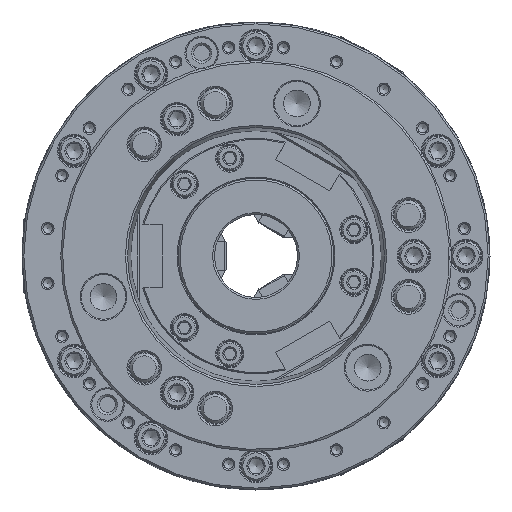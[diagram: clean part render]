
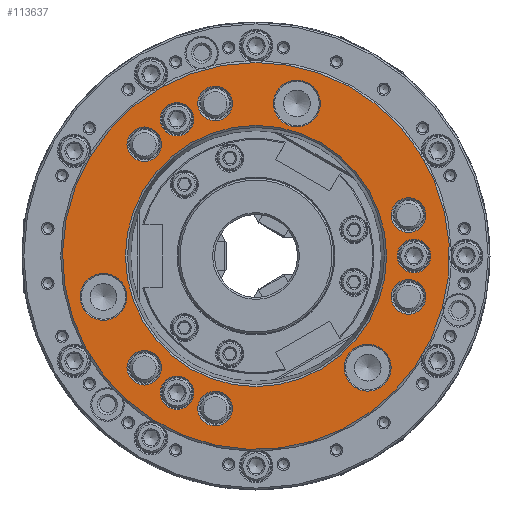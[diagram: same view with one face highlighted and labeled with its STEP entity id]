
A CAD part, left-side view. The second image highlights one B-rep face of the part: STEP entity #113637.
In plain terms, the highlighted planar face has unit normal (-1, 0, 0).
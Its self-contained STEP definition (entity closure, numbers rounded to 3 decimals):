
#1147 = AXIS2_PLACEMENT_3D ( 'NONE', #92659, #24201, #63555 ) ;
#3025 = EDGE_CURVE ( 'NONE', #101334, #101334, #127035, .T. ) ;
#3201 = CIRCLE ( 'NONE', #1147, 9.1 ) ;
#5072 = CARTESIAN_POINT ( 'NONE',  ( -114., 60.617, 70.017 ) ) ;
#5538 = VERTEX_POINT ( 'NONE', #35301 ) ;
#7257 = FACE_BOUND ( 'NONE', #65938, .T. ) ;
#8557 = FACE_BOUND ( 'NONE', #112710, .T. ) ;
#11482 = CARTESIAN_POINT ( 'NONE',  ( -114., 60.617, 60.617 ) ) ;
#11583 = ORIENTED_EDGE ( 'NONE', *, *, #23357, .F. ) ;
#11801 = AXIS2_PLACEMENT_3D ( 'NONE', #64435, #103814, #124495 ) ;
#13238 = ORIENTED_EDGE ( 'NONE', *, *, #102738, .F. ) ;
#14631 = EDGE_CURVE ( 'NONE', #38583, #38583, #114431, .T. ) ;
#16107 = AXIS2_PLACEMENT_3D ( 'NONE', #80657, #42489, #81928 ) ;
#19933 = CARTESIAN_POINT ( 'NONE',  ( -114., 0., 0. ) ) ;
#20466 = EDGE_CURVE ( 'NONE', #30828, #30828, #3201, .T. ) ;
#20792 = CIRCLE ( 'NONE', #126011, 9.1 ) ;
#21116 = DIRECTION ( 'NONE',  ( -1., 0., 0. ) ) ;
#21789 = CIRCLE ( 'NONE', #93974, 9.1 ) ;
#22289 = CARTESIAN_POINT ( 'NONE',  ( -114., 42.862, -74.24 ) ) ;
#22428 = VERTEX_POINT ( 'NONE', #83151 ) ;
#23357 = EDGE_CURVE ( 'NONE', #112177, #112177, #23728, .T. ) ;
#23728 = CIRCLE ( 'NONE', #46314, 70.861 ) ;
#23734 = CARTESIAN_POINT ( 'NONE',  ( -114., 82.804, -22.187 ) ) ;
#23831 = CARTESIAN_POINT ( 'NONE',  ( -114., 42.863, 74.24 ) ) ;
#23855 = CARTESIAN_POINT ( 'NONE',  ( -114., 0., 105. ) ) ;
#24201 = DIRECTION ( 'NONE',  ( -1., 0., 0. ) ) ;
#25109 = DIRECTION ( 'NONE',  ( 0., 0., 1. ) ) ;
#27850 = CARTESIAN_POINT ( 'NONE',  ( -114., 82.804, -34.892 ) ) ;
#28648 = FACE_BOUND ( 'NONE', #32006, .T. ) ;
#28682 = EDGE_LOOP ( 'NONE', ( #11583 ) ) ;
#29240 = DIRECTION ( 'NONE',  ( 1., 0., 0. ) ) ;
#29476 = AXIS2_PLACEMENT_3D ( 'NONE', #68035, #85471, #124893 ) ;
#30828 = VERTEX_POINT ( 'NONE', #118640 ) ;
#31654 = VERTEX_POINT ( 'NONE', #39412 ) ;
#31661 = AXIS2_PLACEMENT_3D ( 'NONE', #23734, #63090, #50190 ) ;
#32006 = EDGE_LOOP ( 'NONE', ( #49163 ) ) ;
#33289 = CIRCLE ( 'NONE', #119821, 9.4 ) ;
#33340 = DIRECTION ( 'NONE',  ( -1., 0., 0. ) ) ;
#35301 = CARTESIAN_POINT ( 'NONE',  ( -114., 42.862, -65.14 ) ) ;
#37492 = EDGE_CURVE ( 'NONE', #114072, #114072, #67063, .T. ) ;
#37669 = FACE_BOUND ( 'NONE', #38878, .T. ) ;
#38583 = VERTEX_POINT ( 'NONE', #68331 ) ;
#38878 = EDGE_LOOP ( 'NONE', ( #52444 ) ) ;
#39412 = CARTESIAN_POINT ( 'NONE',  ( -114., -82.804, 31.587 ) ) ;
#40474 = CARTESIAN_POINT ( 'NONE',  ( -114., -82.804, 22.187 ) ) ;
#40477 = AXIS2_PLACEMENT_3D ( 'NONE', #45350, #124209, #45964 ) ;
#41853 = CIRCLE ( 'NONE', #31661, 12.705 ) ;
#42489 = DIRECTION ( 'NONE',  ( -1., 0., 0. ) ) ;
#43016 = DIRECTION ( 'NONE',  ( -1., 0., 0. ) ) ;
#45350 = CARTESIAN_POINT ( 'NONE',  ( -114., 22.187, 82.804 ) ) ;
#45964 = DIRECTION ( 'NONE',  ( 0., 0., 1. ) ) ;
#46314 = AXIS2_PLACEMENT_3D ( 'NONE', #79714, #71301, #99704 ) ;
#46543 = EDGE_CURVE ( 'NONE', #81515, #81515, #110998, .T. ) ;
#46670 = FACE_BOUND ( 'NONE', #28682, .T. ) ;
#47138 = VERTEX_POINT ( 'NONE', #27850 ) ;
#47309 = PLANE ( 'NONE',  #29476 ) ;
#47950 = FACE_BOUND ( 'NONE', #51101, .T. ) ;
#49163 = ORIENTED_EDGE ( 'NONE', *, *, #46543, .F. ) ;
#50190 = DIRECTION ( 'NONE',  ( 0., 0., -1. ) ) ;
#51101 = EDGE_LOOP ( 'NONE', ( #13238 ) ) ;
#51463 = CARTESIAN_POINT ( 'NONE',  ( -114., 42.863, 83.34 ) ) ;
#52072 = CARTESIAN_POINT ( 'NONE',  ( -114., 0., 70.861 ) ) ;
#52444 = ORIENTED_EDGE ( 'NONE', *, *, #93058, .F. ) ;
#52762 = EDGE_LOOP ( 'NONE', ( #122595 ) ) ;
#56989 = FACE_BOUND ( 'NONE', #93420, .T. ) ;
#58243 = DIRECTION ( 'NONE',  ( 0., 0., -1. ) ) ;
#58959 = ORIENTED_EDGE ( 'NONE', *, *, #103769, .F. ) ;
#60373 = DIRECTION ( 'NONE',  ( -1., 0., 0. ) ) ;
#61218 = DIRECTION ( 'NONE',  ( -1., 0., 0. ) ) ;
#62357 = AXIS2_PLACEMENT_3D ( 'NONE', #11482, #61218, #100632 ) ;
#63090 = DIRECTION ( 'NONE',  ( 1., 0., 0. ) ) ;
#63555 = DIRECTION ( 'NONE',  ( 0., 0., 1. ) ) ;
#63982 = EDGE_CURVE ( 'NONE', #47138, #47138, #41853, .T. ) ;
#64082 = ORIENTED_EDGE ( 'NONE', *, *, #110928, .F. ) ;
#64435 = CARTESIAN_POINT ( 'NONE',  ( -114., -60.617, -60.617 ) ) ;
#64524 = VERTEX_POINT ( 'NONE', #5072 ) ;
#65938 = EDGE_LOOP ( 'NONE', ( #70056 ) ) ;
#66088 = FACE_OUTER_BOUND ( 'NONE', #82895, .T. ) ;
#66337 = CIRCLE ( 'NONE', #89031, 9.4 ) ;
#67063 = CIRCLE ( 'NONE', #40477, 9.4 ) ;
#68035 = CARTESIAN_POINT ( 'NONE',  ( -114., 105., 0. ) ) ;
#68331 = CARTESIAN_POINT ( 'NONE',  ( -114., -22.187, 70.099 ) ) ;
#69607 = VERTEX_POINT ( 'NONE', #117385 ) ;
#69894 = CARTESIAN_POINT ( 'NONE',  ( -114., -22.187, 82.804 ) ) ;
#70056 = ORIENTED_EDGE ( 'NONE', *, *, #20466, .F. ) ;
#70297 = EDGE_LOOP ( 'NONE', ( #58959 ) ) ;
#70329 = EDGE_CURVE ( 'NONE', #31654, #31654, #118435, .T. ) ;
#70830 = CARTESIAN_POINT ( 'NONE',  ( -114., 22.187, -82.804 ) ) ;
#71301 = DIRECTION ( 'NONE',  ( -1., 0., 0. ) ) ;
#75511 = AXIS2_PLACEMENT_3D ( 'NONE', #19933, #79381, #118738 ) ;
#75804 = FACE_BOUND ( 'NONE', #103934, .T. ) ;
#76946 = EDGE_CURVE ( 'NONE', #64524, #64524, #109755, .T. ) ;
#78364 = FACE_BOUND ( 'NONE', #70297, .T. ) ;
#79122 = ORIENTED_EDGE ( 'NONE', *, *, #3025, .T. ) ;
#79381 = DIRECTION ( 'NONE',  ( -1., 0., 0. ) ) ;
#79714 = CARTESIAN_POINT ( 'NONE',  ( -114., 0., 0. ) ) ;
#80657 = CARTESIAN_POINT ( 'NONE',  ( -114., -82.804, -22.187 ) ) ;
#81515 = VERTEX_POINT ( 'NONE', #100212 ) ;
#81928 = DIRECTION ( 'NONE',  ( 0., 0., 1. ) ) ;
#82895 = EDGE_LOOP ( 'NONE', ( #79122 ) ) ;
#83151 = CARTESIAN_POINT ( 'NONE',  ( -114., 60.617, -51.217 ) ) ;
#85471 = DIRECTION ( 'NONE',  ( 1., 0., 0. ) ) ;
#85563 = AXIS2_PLACEMENT_3D ( 'NONE', #69894, #29240, #58243 ) ;
#88947 = DIRECTION ( 'NONE',  ( 0., 0., 1. ) ) ;
#89031 = AXIS2_PLACEMENT_3D ( 'NONE', #118126, #33340, #102390 ) ;
#89611 = VERTEX_POINT ( 'NONE', #51463 ) ;
#90667 = ORIENTED_EDGE ( 'NONE', *, *, #105609, .T. ) ;
#91152 = EDGE_LOOP ( 'NONE', ( #124182 ) ) ;
#91635 = DIRECTION ( 'NONE',  ( -1., 0., 0. ) ) ;
#92152 = CARTESIAN_POINT ( 'NONE',  ( -114., -60.617, -73.322 ) ) ;
#92659 = CARTESIAN_POINT ( 'NONE',  ( -114., -85.725, 0. ) ) ;
#93058 = EDGE_CURVE ( 'NONE', #69607, #69607, #33289, .T. ) ;
#93420 = EDGE_LOOP ( 'NONE', ( #64082 ) ) ;
#93974 = AXIS2_PLACEMENT_3D ( 'NONE', #22289, #60373, #101706 ) ;
#96562 = CARTESIAN_POINT ( 'NONE',  ( -114., 22.187, 92.204 ) ) ;
#97720 = FACE_BOUND ( 'NONE', #124030, .T. ) ;
#99704 = DIRECTION ( 'NONE',  ( 0., 0., 1. ) ) ;
#100212 = CARTESIAN_POINT ( 'NONE',  ( -114., -82.804, -12.787 ) ) ;
#100632 = DIRECTION ( 'NONE',  ( 0., 0., 1. ) ) ;
#101334 = VERTEX_POINT ( 'NONE', #23855 ) ;
#101540 = EDGE_LOOP ( 'NONE', ( #90667 ) ) ;
#101706 = DIRECTION ( 'NONE',  ( 0., 0., 1. ) ) ;
#101850 = VERTEX_POINT ( 'NONE', #92152 ) ;
#102390 = DIRECTION ( 'NONE',  ( 0., 0., 1. ) ) ;
#102738 = EDGE_CURVE ( 'NONE', #89611, #89611, #20792, .T. ) ;
#103769 = EDGE_CURVE ( 'NONE', #22428, #22428, #66337, .T. ) ;
#103814 = DIRECTION ( 'NONE',  ( 1., 0., 0. ) ) ;
#103934 = EDGE_LOOP ( 'NONE', ( #116005 ) ) ;
#105609 = EDGE_CURVE ( 'NONE', #101850, #101850, #121207, .T. ) ;
#109755 = CIRCLE ( 'NONE', #62357, 9.4 ) ;
#110201 = DIRECTION ( 'NONE',  ( 0., 0., 1. ) ) ;
#110928 = EDGE_CURVE ( 'NONE', #5538, #5538, #21789, .T. ) ;
#110998 = CIRCLE ( 'NONE', #16107, 9.4 ) ;
#112177 = VERTEX_POINT ( 'NONE', #52072 ) ;
#112710 = EDGE_LOOP ( 'NONE', ( #116943 ) ) ;
#113637 = ADVANCED_FACE ( 'NONE', ( #8557, #117080, #116436, #78364, #37669, #75804, #56989, #47950, #28648, #126810, #7257, #46670, #66088, #97720 ), #47309, .F. ) ;
#114072 = VERTEX_POINT ( 'NONE', #96562 ) ;
#114431 = CIRCLE ( 'NONE', #85563, 12.705 ) ;
#116005 = ORIENTED_EDGE ( 'NONE', *, *, #37492, .F. ) ;
#116436 = FACE_BOUND ( 'NONE', #91152, .T. ) ;
#116943 = ORIENTED_EDGE ( 'NONE', *, *, #14631, .T. ) ;
#117080 = FACE_BOUND ( 'NONE', #101540, .T. ) ;
#117151 = ORIENTED_EDGE ( 'NONE', *, *, #76946, .F. ) ;
#117385 = CARTESIAN_POINT ( 'NONE',  ( -114., 22.187, -73.404 ) ) ;
#118126 = CARTESIAN_POINT ( 'NONE',  ( -114., 60.617, -60.617 ) ) ;
#118435 = CIRCLE ( 'NONE', #124649, 9.4 ) ;
#118640 = CARTESIAN_POINT ( 'NONE',  ( -114., -85.725, 9.1 ) ) ;
#118738 = DIRECTION ( 'NONE',  ( 0., 0., 1. ) ) ;
#119821 = AXIS2_PLACEMENT_3D ( 'NONE', #70830, #43016, #110201 ) ;
#121207 = CIRCLE ( 'NONE', #11801, 12.705 ) ;
#122595 = ORIENTED_EDGE ( 'NONE', *, *, #70329, .F. ) ;
#124030 = EDGE_LOOP ( 'NONE', ( #117151 ) ) ;
#124182 = ORIENTED_EDGE ( 'NONE', *, *, #63982, .T. ) ;
#124209 = DIRECTION ( 'NONE',  ( -1., 0., 0. ) ) ;
#124495 = DIRECTION ( 'NONE',  ( 0., 0., -1. ) ) ;
#124649 = AXIS2_PLACEMENT_3D ( 'NONE', #40474, #21116, #88947 ) ;
#124893 = DIRECTION ( 'NONE',  ( 0., 0., -1. ) ) ;
#126011 = AXIS2_PLACEMENT_3D ( 'NONE', #23831, #91635, #25109 ) ;
#126810 = FACE_BOUND ( 'NONE', #52762, .T. ) ;
#127035 = CIRCLE ( 'NONE', #75511, 105. ) ;
